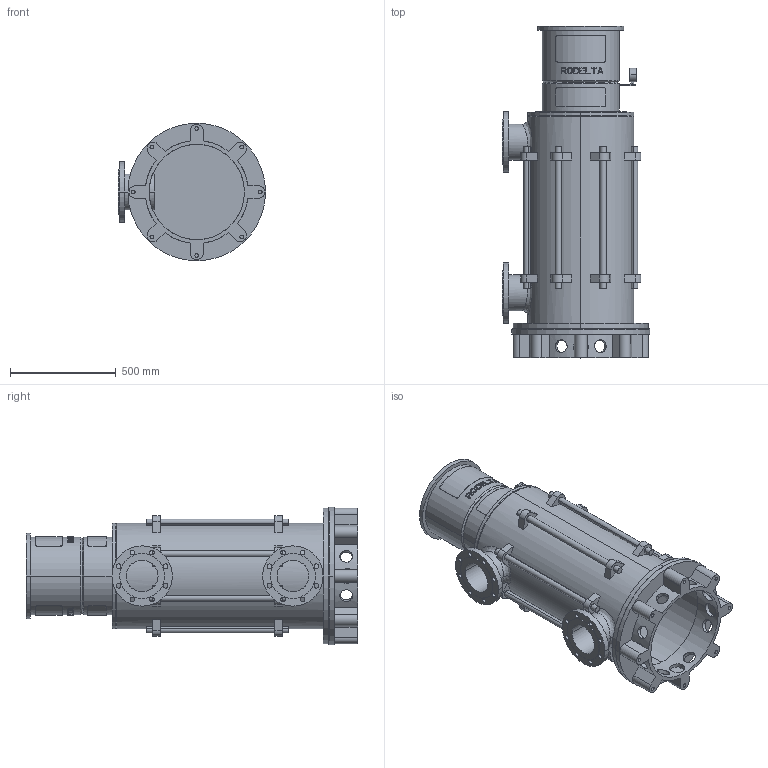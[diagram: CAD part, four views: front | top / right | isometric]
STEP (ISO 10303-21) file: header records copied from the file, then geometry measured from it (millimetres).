
FILE_DESCRIPTION((''),'2;1');
FILE_NAME('LS6_4TR_0GR_PN16_TOT_30KW','2025-10-23T14:41:02',('Lyritlocal'),(''),'CREO PARAMETRIC BY PTC INC, 2022014','CREO PARAMETRIC BY PTC INC, 2022014','');
FILE_SCHEMA(('CONFIG_CONTROL_DESIGN'));
Length unit declared in the file: millimetre
Products named in the file (1): LS6_4TR_0GR_PN16_TOT_30KW
Bounding box: 695 x 1567 x 650 mm (x, y, z)
Volume: 48716004.9 mm3; surface area: 6690009.5 mm2
Topology: 3 solids, 11 shells, 744 faces, 1951 edges, 1294 vertices
Faces by surface type: plane 438, cylinder 286, cone 12, bspline 8
Entity records: 25217 total; most frequent: CARTESIAN_POINT 6973, ORIENTED_EDGE 3870, DIRECTION 3585, EDGE_CURVE 1951, AXIS2_PLACEMENT_3D 1353, VERTEX_POINT 1294, EDGE_LOOP 909, VECTOR 879
